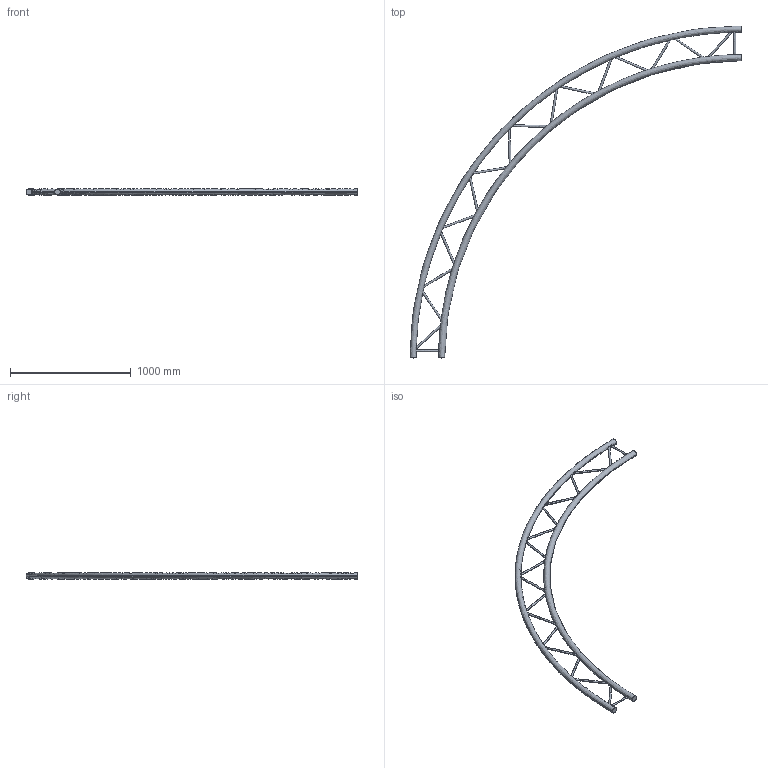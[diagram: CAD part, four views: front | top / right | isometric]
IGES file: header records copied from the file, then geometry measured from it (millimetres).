
Start section: SolidWorks IGES file using analytic representation for surfaces
Global section: file name: K:\BIBLIO\asd_biblio\EX290\Cercles\EXC290H\EXC29550H\EXC29550H.IGS; native system: SolidWorks 2009; preprocessor: SolidWorks 2009; author: des3; date: 091026.103618; units: millimetre
Bounding box: 2750 x 2750 x 50 mm (x, y, z)
Surface area: 1522777.1 mm2 (no closed solid volume)
Topology: 0 solids, 0 shells, 44 faces, 3148 edges, 3148 vertices
Faces by surface type: revolution 36, bspline 8
